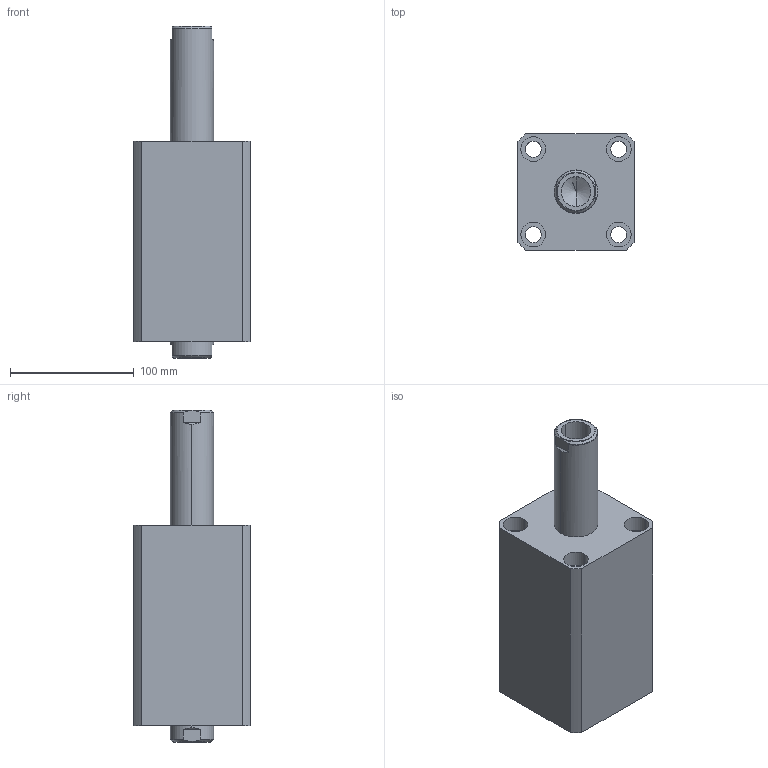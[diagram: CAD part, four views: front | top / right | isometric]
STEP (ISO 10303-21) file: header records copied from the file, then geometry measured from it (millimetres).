
FILE_DESCRIPTION (( 'STEP AP214' ), '1' );
FILE_NAME ('chtb-sw63x80n_asm.STEP', '2018-05-12T02:19:38', ( 'Windows' ), ( 'Microsoft' ), 'SwSTEP 2.0', 'SolidWorks 2015', '' );
FILE_SCHEMA (( 'AUTOMOTIVE_DESIGN' ));
Length unit declared in the file: millimetre
Products named in the file (4): CHTB-SW63X80NHSG; CHTB-SW63X80NBT; CHTB-63QG; chtb-sw63x80n_asm
Assembly tree (3 placements, depth 2):
  chtb-sw63x80n_asm
    CHTB-63QG
    CHTB-SW63X80NBT
    CHTB-SW63X80NHSG
Bounding box: 94 x 94 x 268 mm (x, y, z)
Volume: 1216864.2 mm3; surface area: 194413 mm2
Topology: 3 solids, 3 shells, 184 faces, 515 edges, 349 vertices
Faces by surface type: cylinder 106, plane 38, cone 16, bspline 12, torus 12
Entity records: 18385 total; most frequent: CARTESIAN_POINT 13775, ORIENTED_EDGE 1014, DIRECTION 814, EDGE_CURVE 507, VERTEX_POINT 349, AXIS2_PLACEMENT_3D 331, EDGE_LOOP 220, FACE_OUTER_BOUND 184
